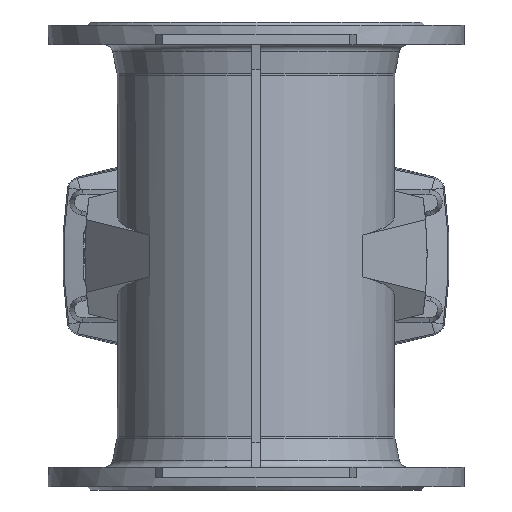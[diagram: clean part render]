
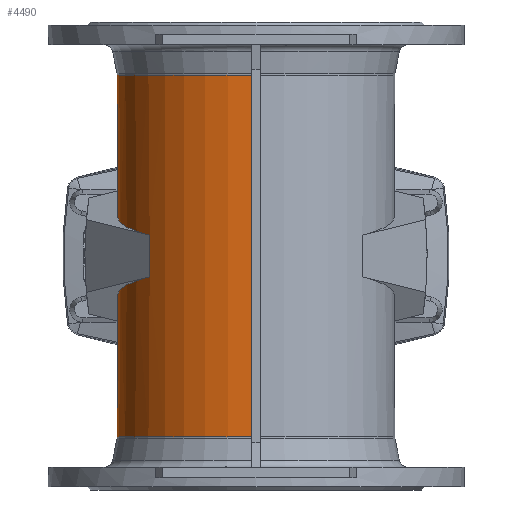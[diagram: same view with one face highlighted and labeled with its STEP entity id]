
A CAD part, front view. The second image highlights one B-rep face of the part: STEP entity #4490.
In plain terms, the highlighted cylindrical face has radius 133.5 mm (diameter 267 mm), a partial arc.
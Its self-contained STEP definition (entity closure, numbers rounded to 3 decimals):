
#650 =( BOUNDED_CURVE ( )  B_SPLINE_CURVE ( 3, ( #9355, #9356, #9361, #9362 ),
 .UNSPECIFIED., .F., .F. ) 
 B_SPLINE_CURVE_WITH_KNOTS ( ( 4, 4 ),
 ( 0.792, 3.027 ),
 .UNSPECIFIED. ) 
 CURVE ( )  GEOMETRIC_REPRESENTATION_ITEM ( )  RATIONAL_B_SPLINE_CURVE ( ( 1., 0.625, 0.625, 1. ) ) 
 REPRESENTATION_ITEM ( '' )  );
#721 =( BOUNDED_CURVE ( )  B_SPLINE_CURVE ( 3, ( #9182, #9181, #9190, #9191 ),
 .UNSPECIFIED., .F., .F. ) 
 B_SPLINE_CURVE_WITH_KNOTS ( ( 4, 4 ),
 ( 0.792, 3.027 ),
 .UNSPECIFIED. ) 
 CURVE ( )  GEOMETRIC_REPRESENTATION_ITEM ( )  RATIONAL_B_SPLINE_CURVE ( ( 1., 0.625, 0.625, 1. ) ) 
 REPRESENTATION_ITEM ( '' )  );
#3346 = AXIS2_PLACEMENT_3D ( 'NONE', #9357, #9358, #9359 ) ;
#3353 = AXIS2_PLACEMENT_3D ( 'NONE', #9408, #9409, #9410 ) ;
#3831 = VERTEX_POINT ( 'NONE', #6616 ) ;
#3947 = VERTEX_POINT ( 'NONE', #6732 ) ;
#4490 = ADVANCED_FACE ( 'NONE', ( #6083 ), #6096, .T. ) ;
#4711 = ORIENTED_EDGE ( 'NONE', *, *, #5278, .T. ) ;
#4713 = ORIENTED_EDGE ( 'NONE', *, *, #5292, .F. ) ;
#4714 = ORIENTED_EDGE ( 'NONE', *, *, #5275, .F. ) ;
#4715 = ORIENTED_EDGE ( 'NONE', *, *, #5246, .F. ) ;
#4716 = ORIENTED_EDGE ( 'NONE', *, *, #5274, .T. ) ;
#4717 = ORIENTED_EDGE ( 'NONE', *, *, #5238, .F. ) ;
#5235 = EDGE_CURVE ( 'NONE', #3831, #10188, #8853, .T. ) ;
#5238 = EDGE_CURVE ( 'NONE', #10132, #3947, #8857, .T. ) ;
#5246 = EDGE_CURVE ( 'NONE', #10139, #10193, #8867, .T. ) ;
#5247 = EDGE_CURVE ( 'NONE', #10188, #3947, #721, .T. ) ;
#5274 = EDGE_CURVE ( 'NONE', #10132, #10193, #8897, .T. ) ;
#5275 = EDGE_CURVE ( 'NONE', #3831, #10185, #650, .T. ) ;
#5278 = EDGE_CURVE ( 'NONE', #10148, #10185, #8903, .T. ) ;
#5292 = EDGE_CURVE ( 'NONE', #10148, #10139, #8923, .T. ) ;
#5668 = AXIS2_PLACEMENT_3D ( 'NONE', #8325, #8323, #8321 ) ;
#6083 = FACE_OUTER_BOUND ( 'NONE', #12711, .T. ) ;
#6096 = CYLINDRICAL_SURFACE ( 'NONE', #5668, 133.5 ) ;
#6616 = CARTESIAN_POINT ( 'NONE',  ( -102.267, -85.812, 20.008 ) ) ;
#6732 = CARTESIAN_POINT ( 'NONE',  ( -4.5, 133.424, -70.36 ) ) ;
#8321 = DIRECTION ( 'NONE',  ( -1., 0., 0. ) ) ;
#8323 = DIRECTION ( 'NONE',  ( 0., 0., -1. ) ) ;
#8325 = CARTESIAN_POINT ( 'NONE',  ( 0., 0., 703.907 ) ) ;
#8853 = LINE ( 'NONE', #9155, #8855 ) ;
#8855 = VECTOR ( 'NONE', #9153, 1000. ) ;
#8857 = LINE ( 'NONE', #9162, #8859 ) ;
#8859 = VECTOR ( 'NONE', #9163, 1000. ) ;
#8867 = LINE ( 'NONE', #9183, #8871 ) ;
#8871 = VECTOR ( 'NONE', #9176, 1000. ) ;
#8897 = CIRCLE ( 'NONE', #3346, 133.5 ) ;
#8903 = LINE ( 'NONE', #9360, #8906 ) ;
#8906 = VECTOR ( 'NONE', #9364, 1000. ) ;
#8923 = CIRCLE ( 'NONE', #3353, 133.5 ) ;
#9153 = DIRECTION ( 'NONE',  ( 0., 0., -1. ) ) ;
#9155 = CARTESIAN_POINT ( 'NONE',  ( -102.267, -85.812, 703.907 ) ) ;
#9162 = CARTESIAN_POINT ( 'NONE',  ( -4.5, 133.424, 0. ) ) ;
#9163 = DIRECTION ( 'NONE',  ( 0., 0., 1. ) ) ;
#9176 = DIRECTION ( 'NONE',  ( 0., 0., -1. ) ) ;
#9181 = CARTESIAN_POINT ( 'NONE',  ( -184.531, 12.226, -40.272 ) ) ;
#9182 = CARTESIAN_POINT ( 'NONE',  ( -102.267, -85.812, -20.008 ) ) ;
#9183 = CARTESIAN_POINT ( 'NONE',  ( -4.25, -133.432, 703.907 ) ) ;
#9190 = CARTESIAN_POINT ( 'NONE',  ( -132.407, 129.11, -67.116 ) ) ;
#9191 = CARTESIAN_POINT ( 'NONE',  ( -4.5, 133.424, -70.36 ) ) ;
#9355 = CARTESIAN_POINT ( 'NONE',  ( -102.267, -85.812, 20.008 ) ) ;
#9356 = CARTESIAN_POINT ( 'NONE',  ( -184.531, 12.226, 40.272 ) ) ;
#9357 = CARTESIAN_POINT ( 'NONE',  ( 0., 0., -173.935 ) ) ;
#9358 = DIRECTION ( 'NONE',  ( 0., 0., 1. ) ) ;
#9359 = DIRECTION ( 'NONE',  ( 1., 0., 0. ) ) ;
#9360 = CARTESIAN_POINT ( 'NONE',  ( -4.5, 133.424, 0. ) ) ;
#9361 = CARTESIAN_POINT ( 'NONE',  ( -132.407, 129.11, 67.116 ) ) ;
#9362 = CARTESIAN_POINT ( 'NONE',  ( -4.5, 133.424, 70.36 ) ) ;
#9364 = DIRECTION ( 'NONE',  ( 0., 0., -1. ) ) ;
#9408 = CARTESIAN_POINT ( 'NONE',  ( 0., 0., 173.935 ) ) ;
#9409 = DIRECTION ( 'NONE',  ( 0., 0., 1. ) ) ;
#9410 = DIRECTION ( 'NONE',  ( 1., 0., 0. ) ) ;
#9775 = CARTESIAN_POINT ( 'NONE',  ( -4.5, 133.424, -173.935 ) ) ;
#9782 = CARTESIAN_POINT ( 'NONE',  ( -4.25, -133.432, 173.935 ) ) ;
#9791 = CARTESIAN_POINT ( 'NONE',  ( -4.5, 133.424, 173.935 ) ) ;
#9828 = CARTESIAN_POINT ( 'NONE',  ( -4.5, 133.424, 70.36 ) ) ;
#9831 = CARTESIAN_POINT ( 'NONE',  ( -102.267, -85.812, -20.008 ) ) ;
#9836 = CARTESIAN_POINT ( 'NONE',  ( -4.25, -133.432, -173.935 ) ) ;
#10132 = VERTEX_POINT ( 'NONE', #9775 ) ;
#10139 = VERTEX_POINT ( 'NONE', #9782 ) ;
#10148 = VERTEX_POINT ( 'NONE', #9791 ) ;
#10185 = VERTEX_POINT ( 'NONE', #9828 ) ;
#10188 = VERTEX_POINT ( 'NONE', #9831 ) ;
#10193 = VERTEX_POINT ( 'NONE', #9836 ) ;
#12711 = EDGE_LOOP ( 'NONE', ( #4717, #4716, #4715, #4713, #4711, #4714, #12847, #12850 ) ) ;
#12847 = ORIENTED_EDGE ( 'NONE', *, *, #5235, .T. ) ;
#12850 = ORIENTED_EDGE ( 'NONE', *, *, #5247, .T. ) ;
